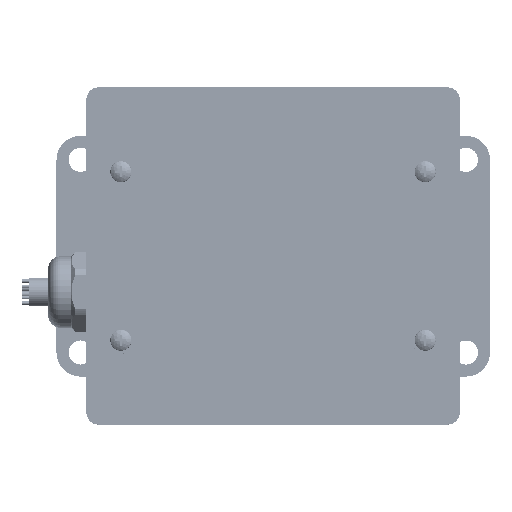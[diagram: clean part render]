
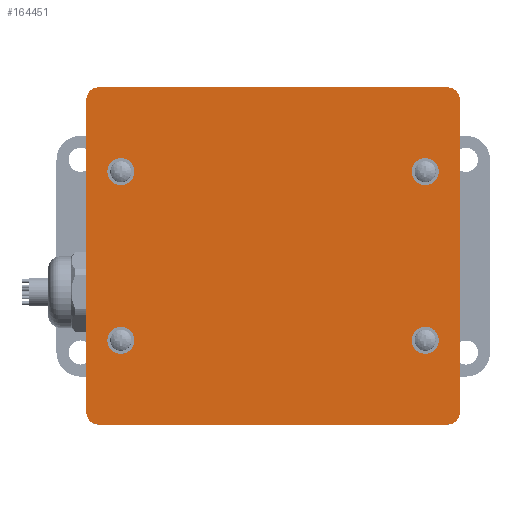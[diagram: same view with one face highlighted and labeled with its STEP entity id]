
A CAD part, top view. The second image highlights one B-rep face of the part: STEP entity #164451.
In plain terms, the highlighted planar face has unit normal (0, 0, 1) as drawn and (0, 1, 0) by its records, which use the part's own axes.
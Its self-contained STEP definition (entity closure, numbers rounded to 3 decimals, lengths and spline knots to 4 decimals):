
#4936=FACE_BOUND('',#28603,.T.);
#4937=FACE_BOUND('',#28604,.T.);
#4938=FACE_BOUND('',#28605,.T.);
#4939=FACE_BOUND('',#28606,.T.);
#8283=CIRCLE('',#176121,0.125);
#8292=CIRCLE('',#176133,0.125);
#8293=CIRCLE('',#176135,0.125);
#8294=CIRCLE('',#176138,0.125);
#8311=CIRCLE('',#176172,0.078);
#8312=CIRCLE('',#176174,0.078);
#8313=CIRCLE('',#176176,0.078);
#8314=CIRCLE('',#176178,0.078);
#18479=FACE_OUTER_BOUND('',#28602,.T.);
#28602=EDGE_LOOP('',(#142222,#142223,#142224,#142225,#142226,#142227,#142228,
#142229));
#28603=EDGE_LOOP('',(#142230));
#28604=EDGE_LOOP('',(#142231));
#28605=EDGE_LOOP('',(#142232));
#28606=EDGE_LOOP('',(#142233));
#44999=LINE('',#284697,#61433);
#45004=LINE('',#284711,#61438);
#45039=LINE('',#284824,#61473);
#45040=LINE('',#284826,#61474);
#61433=VECTOR('',#215274,0.3937);
#61438=VECTOR('',#215289,0.3937);
#61473=VECTOR('',#215414,0.3937);
#61474=VECTOR('',#215417,0.3937);
#75789=VERTEX_POINT('',#284657);
#75790=VERTEX_POINT('',#284658);
#75807=VERTEX_POINT('',#284696);
#75808=VERTEX_POINT('',#284700);
#75809=VERTEX_POINT('',#284704);
#75810=VERTEX_POINT('',#284705);
#75811=VERTEX_POINT('',#284710);
#75812=VERTEX_POINT('',#284714);
#75841=VERTEX_POINT('',#284806);
#75842=VERTEX_POINT('',#284810);
#75843=VERTEX_POINT('',#284814);
#75844=VERTEX_POINT('',#284818);
#97896=EDGE_CURVE('',#75789,#75790,#8283,.T.);
#97915=EDGE_CURVE('',#75790,#75807,#44999,.T.);
#97917=EDGE_CURVE('',#75807,#75808,#8292,.T.);
#97919=EDGE_CURVE('',#75809,#75810,#8293,.T.);
#97922=EDGE_CURVE('',#75810,#75811,#45004,.T.);
#97924=EDGE_CURVE('',#75811,#75812,#8294,.T.);
#97970=EDGE_CURVE('',#75841,#75841,#8311,.T.);
#97972=EDGE_CURVE('',#75842,#75842,#8312,.T.);
#97974=EDGE_CURVE('',#75843,#75843,#8313,.T.);
#97976=EDGE_CURVE('',#75844,#75844,#8314,.T.);
#97978=EDGE_CURVE('',#75808,#75809,#45039,.T.);
#97979=EDGE_CURVE('',#75812,#75789,#45040,.T.);
#142222=ORIENTED_EDGE('',*,*,#97896,.F.);
#142223=ORIENTED_EDGE('',*,*,#97979,.F.);
#142224=ORIENTED_EDGE('',*,*,#97924,.F.);
#142225=ORIENTED_EDGE('',*,*,#97922,.F.);
#142226=ORIENTED_EDGE('',*,*,#97919,.F.);
#142227=ORIENTED_EDGE('',*,*,#97978,.F.);
#142228=ORIENTED_EDGE('',*,*,#97917,.F.);
#142229=ORIENTED_EDGE('',*,*,#97915,.F.);
#142230=ORIENTED_EDGE('',*,*,#97970,.T.);
#142231=ORIENTED_EDGE('',*,*,#97972,.T.);
#142232=ORIENTED_EDGE('',*,*,#97974,.T.);
#142233=ORIENTED_EDGE('',*,*,#97976,.T.);
#148254=PLANE('',#176183);
#164451=ADVANCED_FACE('',(#18479,#4936,#4937,#4938,#4939),#148254,.T.);
#176121=AXIS2_PLACEMENT_3D('',#284659,#215242,#215243);
#176133=AXIS2_PLACEMENT_3D('',#284701,#215278,#215279);
#176135=AXIS2_PLACEMENT_3D('',#284706,#215283,#215284);
#176138=AXIS2_PLACEMENT_3D('',#284715,#215293,#215294);
#176172=AXIS2_PLACEMENT_3D('',#284807,#215390,#215391);
#176174=AXIS2_PLACEMENT_3D('',#284811,#215395,#215396);
#176176=AXIS2_PLACEMENT_3D('',#284815,#215400,#215401);
#176178=AXIS2_PLACEMENT_3D('',#284819,#215405,#215406);
#176183=AXIS2_PLACEMENT_3D('',#284827,#215418,#215419);
#215242=DIRECTION('center_axis',(0.,-1.,0.));
#215243=DIRECTION('ref_axis',(-0.707,0.,-0.707));
#215274=DIRECTION('',(1.,0.,0.));
#215278=DIRECTION('center_axis',(0.,-1.,0.));
#215279=DIRECTION('ref_axis',(0.707,0.,-0.707));
#215283=DIRECTION('center_axis',(0.,-1.,0.));
#215284=DIRECTION('ref_axis',(0.707,0.,0.707));
#215289=DIRECTION('',(-1.,0.,0.));
#215293=DIRECTION('center_axis',(0.,-1.,0.));
#215294=DIRECTION('ref_axis',(-0.707,0.,0.707));
#215390=DIRECTION('center_axis',(0.,-1.,0.));
#215391=DIRECTION('ref_axis',(-1.,0.,0.));
#215395=DIRECTION('center_axis',(0.,-1.,0.));
#215396=DIRECTION('ref_axis',(-1.,0.,0.));
#215400=DIRECTION('center_axis',(0.,-1.,0.));
#215401=DIRECTION('ref_axis',(-1.,0.,0.));
#215405=DIRECTION('center_axis',(0.,-1.,0.));
#215406=DIRECTION('ref_axis',(-1.,0.,0.));
#215414=DIRECTION('',(0.,0.,1.));
#215417=DIRECTION('',(0.,0.,-1.));
#215418=DIRECTION('center_axis',(0.,1.,0.));
#215419=DIRECTION('ref_axis',(0.,0.,1.));
#284657=CARTESIAN_POINT('',(-1.9375,0.25,-1.625));
#284658=CARTESIAN_POINT('',(-1.8125,0.25,-1.75));
#284659=CARTESIAN_POINT('Origin',(-1.8125,0.25,-1.625));
#284696=CARTESIAN_POINT('',(1.8125,0.25,-1.75));
#284697=CARTESIAN_POINT('',(-1.9375,0.25,-1.75));
#284700=CARTESIAN_POINT('',(1.9375,0.25,-1.625));
#284701=CARTESIAN_POINT('Origin',(1.8125,0.25,-1.625));
#284704=CARTESIAN_POINT('',(1.9375,0.25,1.625));
#284705=CARTESIAN_POINT('',(1.8125,0.25,1.75));
#284706=CARTESIAN_POINT('Origin',(1.8125,0.25,1.625));
#284710=CARTESIAN_POINT('',(-1.8125,0.25,1.75));
#284711=CARTESIAN_POINT('',(1.9375,0.25,1.75));
#284714=CARTESIAN_POINT('',(-1.9375,0.25,1.625));
#284715=CARTESIAN_POINT('Origin',(-1.8125,0.25,1.625));
#284806=CARTESIAN_POINT('',(1.6575,0.25,-0.875));
#284807=CARTESIAN_POINT('Origin',(1.5795,0.25,-0.875));
#284810=CARTESIAN_POINT('',(1.6575,0.25,0.875));
#284811=CARTESIAN_POINT('Origin',(1.5795,0.25,0.875));
#284814=CARTESIAN_POINT('',(-1.5015,0.25,0.875));
#284815=CARTESIAN_POINT('Origin',(-1.5795,0.25,0.875));
#284818=CARTESIAN_POINT('',(-1.5015,0.25,-0.875));
#284819=CARTESIAN_POINT('Origin',(-1.5795,0.25,-0.875));
#284824=CARTESIAN_POINT('',(1.9375,0.25,-1.75));
#284826=CARTESIAN_POINT('',(-1.9375,0.25,1.75));
#284827=CARTESIAN_POINT('Origin',(0.,0.25,0.));
